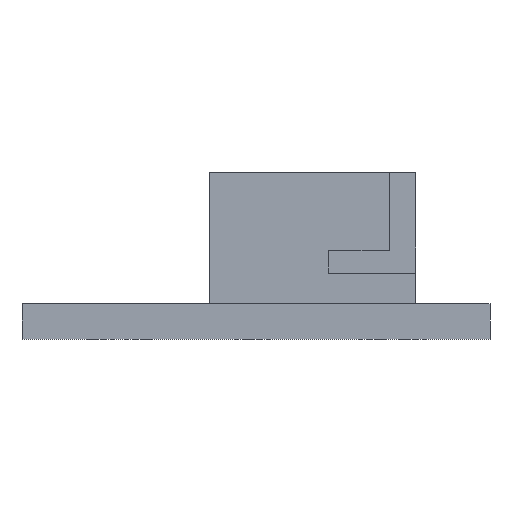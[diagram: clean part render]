
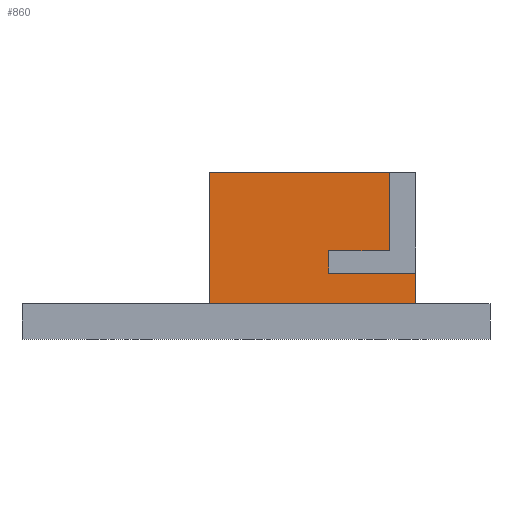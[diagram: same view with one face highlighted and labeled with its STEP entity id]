
A CAD part, front view. The second image highlights one B-rep face of the part: STEP entity #860.
In plain terms, the highlighted planar face has unit normal (0, -1, 0).
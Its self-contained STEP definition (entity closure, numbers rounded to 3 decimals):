
#126 = PLANE('',#127);
#127 = AXIS2_PLACEMENT_3D('',#128,#129,#130);
#128 = CARTESIAN_POINT('',(-30.,-26.,-114.44));
#129 = DIRECTION('',(0.,0.,1.));
#130 = DIRECTION('',(1.,0.,0.));
#304 = PLANE('',#305);
#305 = AXIS2_PLACEMENT_3D('',#306,#307,#308);
#306 = CARTESIAN_POINT('',(20.5,-7.,-114.44));
#307 = DIRECTION('',(1.,0.,0.));
#308 = DIRECTION('',(0.,0.,1.));
#350 = VERTEX_POINT('',#351);
#351 = CARTESIAN_POINT('',(20.5,-7.,-114.44));
#372 = EDGE_CURVE('',#373,#350,#375,.T.);
#373 = VERTEX_POINT('',#374);
#374 = CARTESIAN_POINT('',(-6.,-7.,-114.44));
#375 = SURFACE_CURVE('',#376,(#380,#387),.PCURVE_S1.);
#376 = LINE('',#377,#378);
#377 = CARTESIAN_POINT('',(-6.,-7.,-114.44));
#378 = VECTOR('',#379,1.);
#379 = DIRECTION('',(1.,0.,0.));
#380 = PCURVE('',#126,#381);
#381 = DEFINITIONAL_REPRESENTATION('',(#382),#386);
#382 = LINE('',#383,#384);
#383 = CARTESIAN_POINT('',(24.,19.));
#384 = VECTOR('',#385,1.);
#385 = DIRECTION('',(1.,0.));
#386 = ( GEOMETRIC_REPRESENTATION_CONTEXT(2) 
PARAMETRIC_REPRESENTATION_CONTEXT() REPRESENTATION_CONTEXT('2D SPACE',''
  ) );
#387 = PCURVE('',#388,#393);
#388 = PLANE('',#389);
#389 = AXIS2_PLACEMENT_3D('',#390,#391,#392);
#390 = CARTESIAN_POINT('',(-6.,-7.,-114.44));
#391 = DIRECTION('',(0.,1.,0.));
#392 = DIRECTION('',(0.,0.,1.));
#393 = DEFINITIONAL_REPRESENTATION('',(#394),#398);
#394 = LINE('',#395,#396);
#395 = CARTESIAN_POINT('',(0.,0.));
#396 = VECTOR('',#397,1.);
#397 = DIRECTION('',(0.,1.));
#398 = ( GEOMETRIC_REPRESENTATION_CONTEXT(2) 
PARAMETRIC_REPRESENTATION_CONTEXT() REPRESENTATION_CONTEXT('2D SPACE',''
  ) );
#414 = PLANE('',#415);
#415 = AXIS2_PLACEMENT_3D('',#416,#417,#418);
#416 = CARTESIAN_POINT('',(-6.,-7.,-114.44));
#417 = DIRECTION('',(1.,0.,0.));
#418 = DIRECTION('',(0.,0.,1.));
#563 = PLANE('',#564);
#564 = AXIS2_PLACEMENT_3D('',#565,#566,#567);
#565 = CARTESIAN_POINT('',(-6.,-7.,-97.64));
#566 = DIRECTION('',(0.,0.,1.));
#567 = DIRECTION('',(1.,0.,0.));
#815 = EDGE_CURVE('',#373,#816,#818,.T.);
#816 = VERTEX_POINT('',#817);
#817 = CARTESIAN_POINT('',(-6.,-7.,-97.64));
#818 = SURFACE_CURVE('',#819,(#823,#830),.PCURVE_S1.);
#819 = LINE('',#820,#821);
#820 = CARTESIAN_POINT('',(-6.,-7.,-114.44));
#821 = VECTOR('',#822,1.);
#822 = DIRECTION('',(0.,0.,1.));
#823 = PCURVE('',#414,#824);
#824 = DEFINITIONAL_REPRESENTATION('',(#825),#829);
#825 = LINE('',#826,#827);
#826 = CARTESIAN_POINT('',(0.,0.));
#827 = VECTOR('',#828,1.);
#828 = DIRECTION('',(1.,0.));
#829 = ( GEOMETRIC_REPRESENTATION_CONTEXT(2) 
PARAMETRIC_REPRESENTATION_CONTEXT() REPRESENTATION_CONTEXT('2D SPACE',''
  ) );
#830 = PCURVE('',#388,#831);
#831 = DEFINITIONAL_REPRESENTATION('',(#832),#836);
#832 = LINE('',#833,#834);
#833 = CARTESIAN_POINT('',(0.,0.));
#834 = VECTOR('',#835,1.);
#835 = DIRECTION('',(1.,0.));
#836 = ( GEOMETRIC_REPRESENTATION_CONTEXT(2) 
PARAMETRIC_REPRESENTATION_CONTEXT() REPRESENTATION_CONTEXT('2D SPACE',''
  ) );
#860 = ADVANCED_FACE('',(#861),#388,.F.);
#861 = FACE_BOUND('',#862,.F.);
#862 = EDGE_LOOP('',(#863,#886,#887,#888,#911,#939,#967,#995));
#863 = ORIENTED_EDGE('',*,*,#864,.F.);
#864 = EDGE_CURVE('',#350,#865,#867,.T.);
#865 = VERTEX_POINT('',#866);
#866 = CARTESIAN_POINT('',(20.5,-7.,-110.54));
#867 = SURFACE_CURVE('',#868,(#872,#879),.PCURVE_S1.);
#868 = LINE('',#869,#870);
#869 = CARTESIAN_POINT('',(20.5,-7.,-114.44));
#870 = VECTOR('',#871,1.);
#871 = DIRECTION('',(0.,0.,1.));
#872 = PCURVE('',#388,#873);
#873 = DEFINITIONAL_REPRESENTATION('',(#874),#878);
#874 = LINE('',#875,#876);
#875 = CARTESIAN_POINT('',(0.,26.5));
#876 = VECTOR('',#877,1.);
#877 = DIRECTION('',(1.,0.));
#878 = ( GEOMETRIC_REPRESENTATION_CONTEXT(2) 
PARAMETRIC_REPRESENTATION_CONTEXT() REPRESENTATION_CONTEXT('2D SPACE',''
  ) );
#879 = PCURVE('',#304,#880);
#880 = DEFINITIONAL_REPRESENTATION('',(#881),#885);
#881 = LINE('',#882,#883);
#882 = CARTESIAN_POINT('',(0.,0.));
#883 = VECTOR('',#884,1.);
#884 = DIRECTION('',(1.,0.));
#885 = ( GEOMETRIC_REPRESENTATION_CONTEXT(2) 
PARAMETRIC_REPRESENTATION_CONTEXT() REPRESENTATION_CONTEXT('2D SPACE',''
  ) );
#886 = ORIENTED_EDGE('',*,*,#372,.F.);
#887 = ORIENTED_EDGE('',*,*,#815,.T.);
#888 = ORIENTED_EDGE('',*,*,#889,.T.);
#889 = EDGE_CURVE('',#816,#890,#892,.T.);
#890 = VERTEX_POINT('',#891);
#891 = CARTESIAN_POINT('',(17.1,-7.,-97.64));
#892 = SURFACE_CURVE('',#893,(#897,#904),.PCURVE_S1.);
#893 = LINE('',#894,#895);
#894 = CARTESIAN_POINT('',(-6.,-7.,-97.64));
#895 = VECTOR('',#896,1.);
#896 = DIRECTION('',(1.,0.,0.));
#897 = PCURVE('',#388,#898);
#898 = DEFINITIONAL_REPRESENTATION('',(#899),#903);
#899 = LINE('',#900,#901);
#900 = CARTESIAN_POINT('',(16.8,0.));
#901 = VECTOR('',#902,1.);
#902 = DIRECTION('',(0.,1.));
#903 = ( GEOMETRIC_REPRESENTATION_CONTEXT(2) 
PARAMETRIC_REPRESENTATION_CONTEXT() REPRESENTATION_CONTEXT('2D SPACE',''
  ) );
#904 = PCURVE('',#563,#905);
#905 = DEFINITIONAL_REPRESENTATION('',(#906),#910);
#906 = LINE('',#907,#908);
#907 = CARTESIAN_POINT('',(0.,0.));
#908 = VECTOR('',#909,1.);
#909 = DIRECTION('',(1.,0.));
#910 = ( GEOMETRIC_REPRESENTATION_CONTEXT(2) 
PARAMETRIC_REPRESENTATION_CONTEXT() REPRESENTATION_CONTEXT('2D SPACE',''
  ) );
#911 = ORIENTED_EDGE('',*,*,#912,.F.);
#912 = EDGE_CURVE('',#913,#890,#915,.T.);
#913 = VERTEX_POINT('',#914);
#914 = CARTESIAN_POINT('',(17.1,-7.,-107.64));
#915 = SURFACE_CURVE('',#916,(#920,#927),.PCURVE_S1.);
#916 = LINE('',#917,#918);
#917 = CARTESIAN_POINT('',(17.1,-7.,-112.49));
#918 = VECTOR('',#919,1.);
#919 = DIRECTION('',(0.,0.,1.));
#920 = PCURVE('',#388,#921);
#921 = DEFINITIONAL_REPRESENTATION('',(#922),#926);
#922 = LINE('',#923,#924);
#923 = CARTESIAN_POINT('',(1.95,23.1));
#924 = VECTOR('',#925,1.);
#925 = DIRECTION('',(1.,0.));
#926 = ( GEOMETRIC_REPRESENTATION_CONTEXT(2) 
PARAMETRIC_REPRESENTATION_CONTEXT() REPRESENTATION_CONTEXT('2D SPACE',''
  ) );
#927 = PCURVE('',#928,#933);
#928 = PLANE('',#929);
#929 = AXIS2_PLACEMENT_3D('',#930,#931,#932);
#930 = CARTESIAN_POINT('',(17.1,-125.,-110.54));
#931 = DIRECTION('',(1.,0.,0.));
#932 = DIRECTION('',(0.,0.,1.));
#933 = DEFINITIONAL_REPRESENTATION('',(#934),#938);
#934 = LINE('',#935,#936);
#935 = CARTESIAN_POINT('',(-1.95,-118.));
#936 = VECTOR('',#937,1.);
#937 = DIRECTION('',(1.,0.));
#938 = ( GEOMETRIC_REPRESENTATION_CONTEXT(2) 
PARAMETRIC_REPRESENTATION_CONTEXT() REPRESENTATION_CONTEXT('2D SPACE',''
  ) );
#939 = ORIENTED_EDGE('',*,*,#940,.T.);
#940 = EDGE_CURVE('',#913,#941,#943,.T.);
#941 = VERTEX_POINT('',#942);
#942 = CARTESIAN_POINT('',(9.3,-7.,-107.64));
#943 = SURFACE_CURVE('',#944,(#948,#955),.PCURVE_S1.);
#944 = LINE('',#945,#946);
#945 = CARTESIAN_POINT('',(1.65,-7.,-107.64));
#946 = VECTOR('',#947,1.);
#947 = DIRECTION('',(-1.,0.,0.));
#948 = PCURVE('',#388,#949);
#949 = DEFINITIONAL_REPRESENTATION('',(#950),#954);
#950 = LINE('',#951,#952);
#951 = CARTESIAN_POINT('',(6.8,7.65));
#952 = VECTOR('',#953,1.);
#953 = DIRECTION('',(0.,-1.));
#954 = ( GEOMETRIC_REPRESENTATION_CONTEXT(2) 
PARAMETRIC_REPRESENTATION_CONTEXT() REPRESENTATION_CONTEXT('2D SPACE',''
  ) );
#955 = PCURVE('',#956,#961);
#956 = PLANE('',#957);
#957 = AXIS2_PLACEMENT_3D('',#958,#959,#960);
#958 = CARTESIAN_POINT('',(9.3,-125.,-107.64));
#959 = DIRECTION('',(0.,0.,1.));
#960 = DIRECTION('',(1.,0.,0.));
#961 = DEFINITIONAL_REPRESENTATION('',(#962),#966);
#962 = LINE('',#963,#964);
#963 = CARTESIAN_POINT('',(-7.65,118.));
#964 = VECTOR('',#965,1.);
#965 = DIRECTION('',(-1.,0.));
#966 = ( GEOMETRIC_REPRESENTATION_CONTEXT(2) 
PARAMETRIC_REPRESENTATION_CONTEXT() REPRESENTATION_CONTEXT('2D SPACE',''
  ) );
#967 = ORIENTED_EDGE('',*,*,#968,.F.);
#968 = EDGE_CURVE('',#969,#941,#971,.T.);
#969 = VERTEX_POINT('',#970);
#970 = CARTESIAN_POINT('',(9.3,-7.,-110.54));
#971 = SURFACE_CURVE('',#972,(#976,#983),.PCURVE_S1.);
#972 = LINE('',#973,#974);
#973 = CARTESIAN_POINT('',(9.3,-7.,-112.49));
#974 = VECTOR('',#975,1.);
#975 = DIRECTION('',(0.,0.,1.));
#976 = PCURVE('',#388,#977);
#977 = DEFINITIONAL_REPRESENTATION('',(#978),#982);
#978 = LINE('',#979,#980);
#979 = CARTESIAN_POINT('',(1.95,15.3));
#980 = VECTOR('',#981,1.);
#981 = DIRECTION('',(1.,0.));
#982 = ( GEOMETRIC_REPRESENTATION_CONTEXT(2) 
PARAMETRIC_REPRESENTATION_CONTEXT() REPRESENTATION_CONTEXT('2D SPACE',''
  ) );
#983 = PCURVE('',#984,#989);
#984 = PLANE('',#985);
#985 = AXIS2_PLACEMENT_3D('',#986,#987,#988);
#986 = CARTESIAN_POINT('',(9.3,-125.,-110.54));
#987 = DIRECTION('',(1.,0.,0.));
#988 = DIRECTION('',(0.,0.,1.));
#989 = DEFINITIONAL_REPRESENTATION('',(#990),#994);
#990 = LINE('',#991,#992);
#991 = CARTESIAN_POINT('',(-1.95,-118.));
#992 = VECTOR('',#993,1.);
#993 = DIRECTION('',(1.,0.));
#994 = ( GEOMETRIC_REPRESENTATION_CONTEXT(2) 
PARAMETRIC_REPRESENTATION_CONTEXT() REPRESENTATION_CONTEXT('2D SPACE',''
  ) );
#995 = ORIENTED_EDGE('',*,*,#996,.F.);
#996 = EDGE_CURVE('',#865,#969,#997,.T.);
#997 = SURFACE_CURVE('',#998,(#1002,#1009),.PCURVE_S1.);
#998 = LINE('',#999,#1000);
#999 = CARTESIAN_POINT('',(1.65,-7.,-110.54));
#1000 = VECTOR('',#1001,1.);
#1001 = DIRECTION('',(-1.,0.,0.));
#1002 = PCURVE('',#388,#1003);
#1003 = DEFINITIONAL_REPRESENTATION('',(#1004),#1008);
#1004 = LINE('',#1005,#1006);
#1005 = CARTESIAN_POINT('',(3.9,7.65));
#1006 = VECTOR('',#1007,1.);
#1007 = DIRECTION('',(0.,-1.));
#1008 = ( GEOMETRIC_REPRESENTATION_CONTEXT(2) 
PARAMETRIC_REPRESENTATION_CONTEXT() REPRESENTATION_CONTEXT('2D SPACE',''
  ) );
#1009 = PCURVE('',#1010,#1015);
#1010 = PLANE('',#1011);
#1011 = AXIS2_PLACEMENT_3D('',#1012,#1013,#1014);
#1012 = CARTESIAN_POINT('',(9.3,-125.,-110.54));
#1013 = DIRECTION('',(0.,0.,1.));
#1014 = DIRECTION('',(1.,0.,0.));
#1015 = DEFINITIONAL_REPRESENTATION('',(#1016),#1020);
#1016 = LINE('',#1017,#1018);
#1017 = CARTESIAN_POINT('',(-7.65,118.));
#1018 = VECTOR('',#1019,1.);
#1019 = DIRECTION('',(-1.,0.));
#1020 = ( GEOMETRIC_REPRESENTATION_CONTEXT(2) 
PARAMETRIC_REPRESENTATION_CONTEXT() REPRESENTATION_CONTEXT('2D SPACE',''
  ) );
